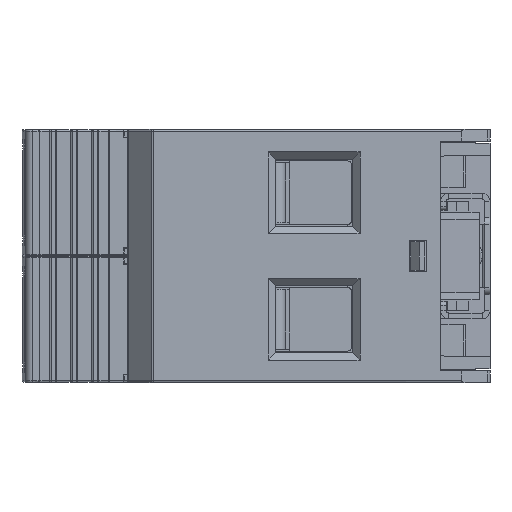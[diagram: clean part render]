
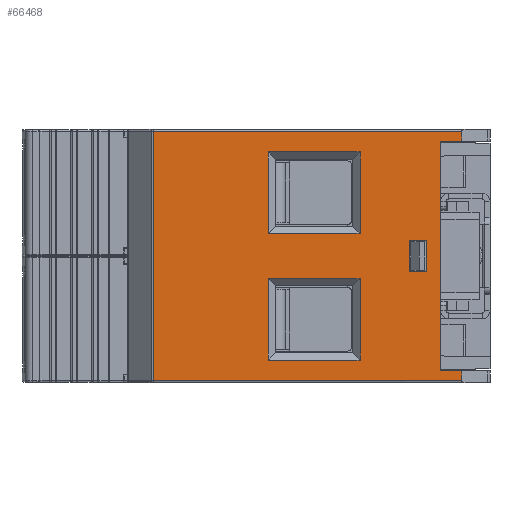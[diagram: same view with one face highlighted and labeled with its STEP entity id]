
A CAD part, left-side view. The second image highlights one B-rep face of the part: STEP entity #66468.
In plain terms, the highlighted planar face has unit normal (-1, 0, 0).
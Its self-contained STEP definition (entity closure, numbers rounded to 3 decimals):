
#10263=DIRECTION('',(0.,-1.,0.004));
#10264=VECTOR('',#10263,3.);
#10265=CARTESIAN_POINT('',(-45.,-26.25,34.286));
#10266=LINE('',#10265,#10264);
#15915=DIRECTION('',(0.,0.,1.));
#15916=VECTOR('',#15915,32.573);
#15917=CARTESIAN_POINT('',(-45.,-26.25,1.714));
#15918=LINE('',#15917,#15916);
#15919=DIRECTION('',(0.,-1.,-0.004));
#15920=VECTOR('',#15919,3.);
#15921=CARTESIAN_POINT('',(-45.,-26.25,1.714));
#15922=LINE('',#15921,#15920);
#15923=DIRECTION('',(0.,1.,0.));
#15924=VECTOR('',#15923,13.063);
#15925=CARTESIAN_POINT('',(-45.,-14.781,14.781));
#15926=LINE('',#15925,#15924);
#15927=DIRECTION('',(0.,0.,-1.));
#15928=VECTOR('',#15927,11.563);
#15929=CARTESIAN_POINT('',(-45.,-1.719,14.781));
#15930=LINE('',#15929,#15928);
#15931=DIRECTION('',(0.,0.,1.));
#15932=VECTOR('',#15931,11.563);
#15933=CARTESIAN_POINT('',(-45.,-14.781,3.219));
#15934=LINE('',#15933,#15932);
#15935=DIRECTION('',(0.,0.,-1.));
#15936=VECTOR('',#15935,11.563);
#15937=CARTESIAN_POINT('',(-45.,-1.719,32.781));
#15938=LINE('',#15937,#15936);
#15939=DIRECTION('',(0.,-1.,0.));
#15940=VECTOR('',#15939,13.063);
#15941=CARTESIAN_POINT('',(-45.,-1.719,21.219));
#15942=LINE('',#15941,#15940);
#15943=DIRECTION('',(0.,0.,1.));
#15944=VECTOR('',#15943,11.563);
#15945=CARTESIAN_POINT('',(-45.,-14.781,21.219));
#15946=LINE('',#15945,#15944);
#15951=DIRECTION('',(0.,-1.,0.));
#15952=VECTOR('',#15951,43.876);
#15953=CARTESIAN_POINT('',(-45.,14.626,0.3));
#15954=LINE('',#15953,#15952);
#16894=DIRECTION('',(0.,0.,1.));
#16895=VECTOR('',#16894,1.401);
#16896=CARTESIAN_POINT('',(-45.,-29.25,0.3));
#16897=LINE('',#16896,#16895);
#17222=DIRECTION('',(0.,0.,-1.));
#17223=VECTOR('',#17222,35.4);
#17224=CARTESIAN_POINT('',(-45.,14.626,35.7));
#17225=LINE('',#17224,#17223);
#17250=DIRECTION('',(0.,1.,0.));
#17251=VECTOR('',#17250,43.876);
#17252=CARTESIAN_POINT('',(-45.,-29.25,35.7));
#17253=LINE('',#17252,#17251);
#17258=DIRECTION('',(0.,0.,1.));
#17259=VECTOR('',#17258,1.401);
#17260=CARTESIAN_POINT('',(-45.,-29.25,34.299));
#17261=LINE('',#17260,#17259);
#28036=DIRECTION('',(0.,1.,0.));
#28037=VECTOR('',#28036,13.063);
#28038=CARTESIAN_POINT('',(-45.,-14.781,3.219));
#28039=LINE('',#28038,#28037);
#28068=DIRECTION('',(0.,-1.,0.));
#28069=VECTOR('',#28068,13.063);
#28070=CARTESIAN_POINT('',(-45.,-1.719,32.781));
#28071=LINE('',#28070,#28069);
#28128=DIRECTION('',(0.,0.,1.));
#28129=VECTOR('',#28128,4.463);
#28130=CARTESIAN_POINT('',(-45.,-21.769,15.769));
#28131=LINE('',#28130,#28129);
#28136=DIRECTION('',(0.,-1.,0.));
#28137=VECTOR('',#28136,2.463);
#28138=CARTESIAN_POINT('',(-45.,-21.769,20.231));
#28139=LINE('',#28138,#28137);
#28144=DIRECTION('',(0.,0.,-1.));
#28145=VECTOR('',#28144,4.463);
#28146=CARTESIAN_POINT('',(-45.,-24.231,20.231));
#28147=LINE('',#28146,#28145);
#28152=DIRECTION('',(0.,1.,0.));
#28153=VECTOR('',#28152,2.463);
#28154=CARTESIAN_POINT('',(-45.,-24.231,15.769));
#28155=LINE('',#28154,#28153);
#32634=CARTESIAN_POINT('',(-45.,-26.25,34.286));
#32635=VERTEX_POINT('',#32634);
#32636=CARTESIAN_POINT('',(-45.,-29.25,34.299));
#32637=VERTEX_POINT('',#32636);
#32902=CARTESIAN_POINT('',(-45.,-29.25,35.7));
#32903=VERTEX_POINT('',#32902);
#32904=CARTESIAN_POINT('',(-45.,14.626,0.3));
#32905=CARTESIAN_POINT('',(-45.,-29.25,0.3));
#32906=VERTEX_POINT('',#32904);
#32907=VERTEX_POINT('',#32905);
#32908=CARTESIAN_POINT('',(-45.,14.626,35.7));
#32909=VERTEX_POINT('',#32908);
#32910=CARTESIAN_POINT('',(-45.,-26.25,1.714));
#32911=VERTEX_POINT('',#32910);
#32912=CARTESIAN_POINT('',(-45.,-29.25,1.701));
#32913=VERTEX_POINT('',#32912);
#32914=CARTESIAN_POINT('',(-45.,-14.781,14.781));
#32915=CARTESIAN_POINT('',(-45.,-1.719,14.781));
#32916=VERTEX_POINT('',#32914);
#32917=VERTEX_POINT('',#32915);
#32918=CARTESIAN_POINT('',(-45.,-1.719,3.219));
#32919=VERTEX_POINT('',#32918);
#32920=CARTESIAN_POINT('',(-45.,-14.781,3.219));
#32921=VERTEX_POINT('',#32920);
#32922=CARTESIAN_POINT('',(-45.,-1.719,32.781));
#32923=CARTESIAN_POINT('',(-45.,-14.781,32.781));
#32924=VERTEX_POINT('',#32922);
#32925=VERTEX_POINT('',#32923);
#32926=CARTESIAN_POINT('',(-45.,-1.719,21.219));
#32927=VERTEX_POINT('',#32926);
#32928=CARTESIAN_POINT('',(-45.,-14.781,21.219));
#32929=VERTEX_POINT('',#32928);
#32930=CARTESIAN_POINT('',(-45.,-21.769,15.769));
#32931=CARTESIAN_POINT('',(-45.,-21.769,20.231));
#32932=VERTEX_POINT('',#32930);
#32933=VERTEX_POINT('',#32931);
#32934=CARTESIAN_POINT('',(-45.,-24.231,15.769));
#32935=VERTEX_POINT('',#32934);
#32936=CARTESIAN_POINT('',(-45.,-24.231,20.231));
#32937=VERTEX_POINT('',#32936);
#66418=CARTESIAN_POINT('',(-45.,18.25,-36.));
#66419=DIRECTION('',(-1.,0.,0.));
#66420=DIRECTION('',(0.,-1.,0.));
#66421=AXIS2_PLACEMENT_3D('',#66418,#66419,#66420);
#66422=PLANE('',#66421);
#66424=ORIENTED_EDGE('',*,*,#66423,.F.);
#66426=ORIENTED_EDGE('',*,*,#66425,.F.);
#66428=ORIENTED_EDGE('',*,*,#66427,.F.);
#66430=ORIENTED_EDGE('',*,*,#66429,.F.);
#66431=ORIENTED_EDGE('',*,*,#54979,.F.);
#66432=ORIENTED_EDGE('',*,*,#66411,.F.);
#66433=ORIENTED_EDGE('',*,*,#54599,.T.);
#66435=ORIENTED_EDGE('',*,*,#66434,.F.);
#66436=EDGE_LOOP('',(#66424,#66426,#66428,#66430,#66431,#66432,#66433,#66435));
#66437=FACE_OUTER_BOUND('',#66436,.F.);
#66439=ORIENTED_EDGE('',*,*,#66438,.T.);
#66441=ORIENTED_EDGE('',*,*,#66440,.T.);
#66443=ORIENTED_EDGE('',*,*,#66442,.F.);
#66445=ORIENTED_EDGE('',*,*,#66444,.T.);
#66446=EDGE_LOOP('',(#66439,#66441,#66443,#66445));
#66447=FACE_BOUND('',#66446,.F.);
#66449=ORIENTED_EDGE('',*,*,#66448,.F.);
#66451=ORIENTED_EDGE('',*,*,#66450,.T.);
#66453=ORIENTED_EDGE('',*,*,#66452,.T.);
#66455=ORIENTED_EDGE('',*,*,#66454,.T.);
#66456=EDGE_LOOP('',(#66449,#66451,#66453,#66455));
#66457=FACE_BOUND('',#66456,.F.);
#66459=ORIENTED_EDGE('',*,*,#66458,.F.);
#66461=ORIENTED_EDGE('',*,*,#66460,.F.);
#66463=ORIENTED_EDGE('',*,*,#66462,.F.);
#66465=ORIENTED_EDGE('',*,*,#66464,.F.);
#66466=EDGE_LOOP('',(#66459,#66461,#66463,#66465));
#66467=FACE_BOUND('',#66466,.F.);
#66468=ADVANCED_FACE('',(#66437,#66447,#66457,#66467),#66422,.T.);
#54599=EDGE_CURVE('',#32911,#32913,#15922,.T.);
#54979=EDGE_CURVE('',#32635,#32637,#10266,.T.);
#66411=EDGE_CURVE('',#32911,#32635,#15918,.T.);
#66423=EDGE_CURVE('',#32906,#32907,#15954,.T.);
#66425=EDGE_CURVE('',#32909,#32906,#17225,.T.);
#66427=EDGE_CURVE('',#32903,#32909,#17253,.T.);
#66429=EDGE_CURVE('',#32637,#32903,#17261,.T.);
#66434=EDGE_CURVE('',#32907,#32913,#16897,.T.);
#66438=EDGE_CURVE('',#32916,#32917,#15926,.T.);
#66440=EDGE_CURVE('',#32917,#32919,#15930,.T.);
#66442=EDGE_CURVE('',#32921,#32919,#28039,.T.);
#66444=EDGE_CURVE('',#32921,#32916,#15934,.T.);
#66448=EDGE_CURVE('',#32924,#32925,#28071,.T.);
#66450=EDGE_CURVE('',#32924,#32927,#15938,.T.);
#66452=EDGE_CURVE('',#32927,#32929,#15942,.T.);
#66454=EDGE_CURVE('',#32929,#32925,#15946,.T.);
#66458=EDGE_CURVE('',#32932,#32933,#28131,.T.);
#66460=EDGE_CURVE('',#32935,#32932,#28155,.T.);
#66462=EDGE_CURVE('',#32937,#32935,#28147,.T.);
#66464=EDGE_CURVE('',#32933,#32937,#28139,.T.);
